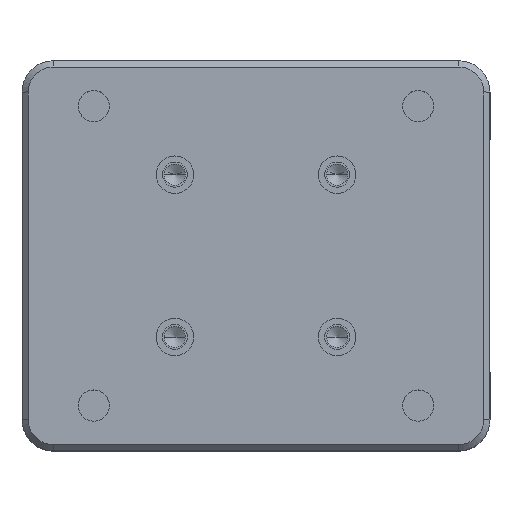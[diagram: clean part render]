
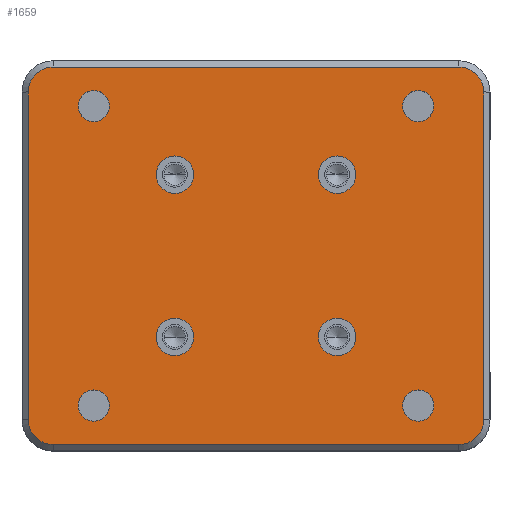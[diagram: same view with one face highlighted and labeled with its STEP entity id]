
A CAD part, top view. The second image highlights one B-rep face of the part: STEP entity #1659.
In plain terms, the highlighted planar face has unit normal (0, 0, 1).
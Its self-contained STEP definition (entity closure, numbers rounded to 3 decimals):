
#2=CARTESIAN_POINT('',(26.,-26.,32.5));
#3=DIRECTION('',(0.,0.,1.));
#4=DIRECTION('',(-1.,0.,0.));
#5=AXIS2_PLACEMENT_3D('',#2,#3,#4);
#7=CARTESIAN_POINT('',(26.,-26.,32.5));
#8=DIRECTION('',(0.,0.,1.));
#9=DIRECTION('',(1.,0.,0.));
#10=AXIS2_PLACEMENT_3D('',#7,#8,#9);
#12=CARTESIAN_POINT('',(-26.,-26.,32.5));
#13=DIRECTION('',(0.,0.,1.));
#14=DIRECTION('',(-1.,0.,0.));
#15=AXIS2_PLACEMENT_3D('',#12,#13,#14);
#17=CARTESIAN_POINT('',(-26.,-26.,32.5));
#18=DIRECTION('',(0.,0.,1.));
#19=DIRECTION('',(1.,0.,0.));
#20=AXIS2_PLACEMENT_3D('',#17,#18,#19);
#22=CARTESIAN_POINT('',(26.,26.,32.5));
#23=DIRECTION('',(0.,0.,1.));
#24=DIRECTION('',(-1.,0.,0.));
#25=AXIS2_PLACEMENT_3D('',#22,#23,#24);
#27=CARTESIAN_POINT('',(26.,26.,32.5));
#28=DIRECTION('',(0.,0.,1.));
#29=DIRECTION('',(1.,0.,0.));
#30=AXIS2_PLACEMENT_3D('',#27,#28,#29);
#32=CARTESIAN_POINT('',(-26.,26.,32.5));
#33=DIRECTION('',(0.,0.,1.));
#34=DIRECTION('',(-1.,0.,0.));
#35=AXIS2_PLACEMENT_3D('',#32,#33,#34);
#37=CARTESIAN_POINT('',(-26.,26.,32.5));
#38=DIRECTION('',(0.,0.,1.));
#39=DIRECTION('',(1.,0.,0.));
#40=AXIS2_PLACEMENT_3D('',#37,#38,#39);
#42=CARTESIAN_POINT('',(-52.,48.,32.5));
#43=DIRECTION('',(0.,0.,1.));
#44=DIRECTION('',(1.,0.,0.));
#45=AXIS2_PLACEMENT_3D('',#42,#43,#44);
#47=CARTESIAN_POINT('',(-52.,48.,32.5));
#48=DIRECTION('',(0.,0.,1.));
#49=DIRECTION('',(-1.,0.,0.));
#50=AXIS2_PLACEMENT_3D('',#47,#48,#49);
#52=CARTESIAN_POINT('',(-52.,-48.,32.5));
#53=DIRECTION('',(0.,0.,-1.));
#54=DIRECTION('',(1.,0.,0.));
#55=AXIS2_PLACEMENT_3D('',#52,#53,#54);
#57=CARTESIAN_POINT('',(-52.,-48.,32.5));
#58=DIRECTION('',(0.,0.,-1.));
#59=DIRECTION('',(-1.,0.,0.));
#60=AXIS2_PLACEMENT_3D('',#57,#58,#59);
#62=CARTESIAN_POINT('',(52.,48.,32.5));
#63=DIRECTION('',(0.,0.,-1.));
#64=DIRECTION('',(-1.,0.,0.));
#65=AXIS2_PLACEMENT_3D('',#62,#63,#64);
#67=CARTESIAN_POINT('',(52.,48.,32.5));
#68=DIRECTION('',(0.,0.,-1.));
#69=DIRECTION('',(1.,0.,0.));
#70=AXIS2_PLACEMENT_3D('',#67,#68,#69);
#72=CARTESIAN_POINT('',(52.,-48.,32.5));
#73=DIRECTION('',(0.,0.,1.));
#74=DIRECTION('',(-1.,0.,0.));
#75=AXIS2_PLACEMENT_3D('',#72,#73,#74);
#77=CARTESIAN_POINT('',(52.,-48.,32.5));
#78=DIRECTION('',(0.,0.,1.));
#79=DIRECTION('',(1.,0.,0.));
#80=AXIS2_PLACEMENT_3D('',#77,#78,#79);
#82=CARTESIAN_POINT('',(-65.,52.5,32.5));
#83=DIRECTION('',(0.,0.,1.));
#84=DIRECTION('',(0.,1.,0.));
#85=AXIS2_PLACEMENT_3D('',#82,#83,#84);
#87=DIRECTION('',(-1.,0.,0.));
#88=VECTOR('',#87,130.);
#89=CARTESIAN_POINT('',(65.,60.5,32.5));
#90=LINE('',#89,#88);
#91=CARTESIAN_POINT('',(65.,52.5,32.5));
#92=DIRECTION('',(0.,0.,1.));
#93=DIRECTION('',(1.,0.,0.));
#94=AXIS2_PLACEMENT_3D('',#91,#92,#93);
#96=DIRECTION('',(0.,1.,0.));
#97=VECTOR('',#96,105.);
#98=CARTESIAN_POINT('',(73.,-52.5,32.5));
#99=LINE('',#98,#97);
#100=CARTESIAN_POINT('',(65.,-52.5,32.5));
#101=DIRECTION('',(0.,0.,1.));
#102=DIRECTION('',(0.,-1.,0.));
#103=AXIS2_PLACEMENT_3D('',#100,#101,#102);
#105=DIRECTION('',(1.,0.,0.));
#106=VECTOR('',#105,130.);
#107=CARTESIAN_POINT('',(-65.,-60.5,32.5));
#108=LINE('',#107,#106);
#109=CARTESIAN_POINT('',(-65.,-52.5,32.5));
#110=DIRECTION('',(0.,0.,1.));
#111=DIRECTION('',(-1.,0.,0.));
#112=AXIS2_PLACEMENT_3D('',#109,#110,#111);
#114=DIRECTION('',(0.,-1.,0.));
#115=VECTOR('',#114,105.);
#116=CARTESIAN_POINT('',(-73.,52.5,32.5));
#117=LINE('',#116,#115);
#1298=CARTESIAN_POINT('',(20.,-26.,32.5));
#1299=VERTEX_POINT('',#1298);
#1300=CARTESIAN_POINT('',(32.,-26.,32.5));
#1301=VERTEX_POINT('',#1300);
#1402=CARTESIAN_POINT('',(-47.,48.,32.5));
#1403=CARTESIAN_POINT('',(-57.,48.,32.5));
#1404=VERTEX_POINT('',#1402);
#1405=VERTEX_POINT('',#1403);
#1411=CARTESIAN_POINT('',(-47.,-48.,32.5));
#1413=VERTEX_POINT('',#1411);
#1415=CARTESIAN_POINT('',(-57.,-48.,32.5));
#1417=VERTEX_POINT('',#1415);
#1419=CARTESIAN_POINT('',(47.,48.,32.5));
#1421=VERTEX_POINT('',#1419);
#1423=CARTESIAN_POINT('',(57.,48.,32.5));
#1425=VERTEX_POINT('',#1423);
#1427=CARTESIAN_POINT('',(47.,-48.,32.5));
#1429=VERTEX_POINT('',#1427);
#1431=CARTESIAN_POINT('',(57.,-48.,32.5));
#1433=VERTEX_POINT('',#1431);
#1466=CARTESIAN_POINT('',(-65.,60.5,32.5));
#1467=CARTESIAN_POINT('',(-73.,52.5,32.5));
#1468=VERTEX_POINT('',#1466);
#1469=VERTEX_POINT('',#1467);
#1474=CARTESIAN_POINT('',(-73.,-52.5,
32.5));
#1475=VERTEX_POINT('',#1474);
#1478=CARTESIAN_POINT('',(-65.,-60.5,32.5));
#1479=VERTEX_POINT('',#1478);
#1482=CARTESIAN_POINT('',(65.,-60.5,32.5));
#1483=VERTEX_POINT('',#1482);
#1486=CARTESIAN_POINT('',(73.,-52.5,32.5));
#1487=VERTEX_POINT('',#1486);
#1490=CARTESIAN_POINT('',(73.,52.5,32.5));
#1491=VERTEX_POINT('',#1490);
#1494=CARTESIAN_POINT('',(65.,60.5,32.5));
#1495=VERTEX_POINT('',#1494);
#1512=CARTESIAN_POINT('',(20.,26.,32.5));
#1513=CARTESIAN_POINT('',(32.,26.,32.5));
#1514=VERTEX_POINT('',#1512);
#1515=VERTEX_POINT('',#1513);
#1530=CARTESIAN_POINT('',(-32.,-26.,32.5));
#1531=CARTESIAN_POINT('',(-20.,-26.,32.5));
#1532=VERTEX_POINT('',#1530);
#1533=VERTEX_POINT('',#1531);
#1548=CARTESIAN_POINT('',(-32.,26.,32.5));
#1549=CARTESIAN_POINT('',(-20.,26.,32.5));
#1550=VERTEX_POINT('',#1548);
#1551=VERTEX_POINT('',#1549);
#1588=CARTESIAN_POINT('',(0.,0.,32.5));
#1589=DIRECTION('',(0.,0.,1.));
#1590=DIRECTION('',(1.,0.,0.));
#1591=AXIS2_PLACEMENT_3D('',#1588,#1589,#1590);
#1592=PLANE('',#1591);
#1594=ORIENTED_EDGE('',*,*,#1593,.F.);
#1596=ORIENTED_EDGE('',*,*,#1595,.F.);
#1598=ORIENTED_EDGE('',*,*,#1597,.F.);
#1600=ORIENTED_EDGE('',*,*,#1599,.F.);
#1602=ORIENTED_EDGE('',*,*,#1601,.F.);
#1604=ORIENTED_EDGE('',*,*,#1603,.F.);
#1606=ORIENTED_EDGE('',*,*,#1605,.F.);
#1608=ORIENTED_EDGE('',*,*,#1607,.F.);
#1609=EDGE_LOOP('',(#1594,#1596,#1598,#1600,#1602,#1604,#1606,#1608));
#1610=FACE_OUTER_BOUND('',#1609,.F.);
#1612=ORIENTED_EDGE('',*,*,#1611,.T.);
#1614=ORIENTED_EDGE('',*,*,#1613,.T.);
#1615=EDGE_LOOP('',(#1612,#1614));
#1616=FACE_BOUND('',#1615,.F.);
#1618=ORIENTED_EDGE('',*,*,#1617,.T.);
#1620=ORIENTED_EDGE('',*,*,#1619,.T.);
#1621=EDGE_LOOP('',(#1618,#1620));
#1622=FACE_BOUND('',#1621,.F.);
#1624=ORIENTED_EDGE('',*,*,#1623,.T.);
#1626=ORIENTED_EDGE('',*,*,#1625,.T.);
#1627=EDGE_LOOP('',(#1624,#1626));
#1628=FACE_BOUND('',#1627,.F.);
#1630=ORIENTED_EDGE('',*,*,#1629,.T.);
#1632=ORIENTED_EDGE('',*,*,#1631,.T.);
#1633=EDGE_LOOP('',(#1630,#1632));
#1634=FACE_BOUND('',#1633,.F.);
#1636=ORIENTED_EDGE('',*,*,#1635,.F.);
#1638=ORIENTED_EDGE('',*,*,#1637,.F.);
#1639=EDGE_LOOP('',(#1636,#1638));
#1640=FACE_BOUND('',#1639,.F.);
#1642=ORIENTED_EDGE('',*,*,#1641,.F.);
#1644=ORIENTED_EDGE('',*,*,#1643,.F.);
#1645=EDGE_LOOP('',(#1642,#1644));
#1646=FACE_BOUND('',#1645,.F.);
#1648=ORIENTED_EDGE('',*,*,#1647,.T.);
#1650=ORIENTED_EDGE('',*,*,#1649,.T.);
#1651=EDGE_LOOP('',(#1648,#1650));
#1652=FACE_BOUND('',#1651,.F.);
#1654=ORIENTED_EDGE('',*,*,#1653,.T.);
#1656=ORIENTED_EDGE('',*,*,#1655,.T.);
#1657=EDGE_LOOP('',(#1654,#1656));
#1658=FACE_BOUND('',#1657,.F.);
#1659=ADVANCED_FACE('',(#1610,#1616,#1622,#1628,#1634,#1640,#1646,#1652,#1658),
#1592,.T.);
#6=CIRCLE('',#5,6.);
#11=CIRCLE('',#10,6.);
#16=CIRCLE('',#15,6.);
#21=CIRCLE('',#20,6.);
#26=CIRCLE('',#25,6.);
#31=CIRCLE('',#30,6.);
#36=CIRCLE('',#35,6.);
#41=CIRCLE('',#40,6.);
#46=CIRCLE('',#45,5.);
#51=CIRCLE('',#50,5.);
#56=CIRCLE('',#55,5.);
#61=CIRCLE('',#60,5.);
#66=CIRCLE('',#65,5.);
#71=CIRCLE('',#70,5.);
#76=CIRCLE('',#75,5.);
#81=CIRCLE('',#80,5.);
#86=CIRCLE('',#85,8.);
#95=CIRCLE('',#94,8.);
#104=CIRCLE('',#103,8.);
#113=CIRCLE('',#112,8.);
#1593=EDGE_CURVE('',#1468,#1469,#86,.T.);
#1595=EDGE_CURVE('',#1495,#1468,#90,.T.);
#1597=EDGE_CURVE('',#1491,#1495,#95,.T.);
#1599=EDGE_CURVE('',#1487,#1491,#99,.T.);
#1601=EDGE_CURVE('',#1483,#1487,#104,.T.);
#1603=EDGE_CURVE('',#1479,#1483,#108,.T.);
#1605=EDGE_CURVE('',#1475,#1479,#113,.T.);
#1607=EDGE_CURVE('',#1469,#1475,#117,.T.);
#1611=EDGE_CURVE('',#1532,#1533,#16,.T.);
#1613=EDGE_CURVE('',#1533,#1532,#21,.T.);
#1617=EDGE_CURVE('',#1514,#1515,#26,.T.);
#1619=EDGE_CURVE('',#1515,#1514,#31,.T.);
#1623=EDGE_CURVE('',#1550,#1551,#36,.T.);
#1625=EDGE_CURVE('',#1551,#1550,#41,.T.);
#1629=EDGE_CURVE('',#1404,#1405,#46,.T.);
#1631=EDGE_CURVE('',#1405,#1404,#51,.T.);
#1635=EDGE_CURVE('',#1413,#1417,#56,.T.);
#1637=EDGE_CURVE('',#1417,#1413,#61,.T.);
#1641=EDGE_CURVE('',#1421,#1425,#66,.T.);
#1643=EDGE_CURVE('',#1425,#1421,#71,.T.);
#1647=EDGE_CURVE('',#1429,#1433,#76,.T.);
#1649=EDGE_CURVE('',#1433,#1429,#81,.T.);
#1653=EDGE_CURVE('',#1299,#1301,#6,.T.);
#1655=EDGE_CURVE('',#1301,#1299,#11,.T.);
